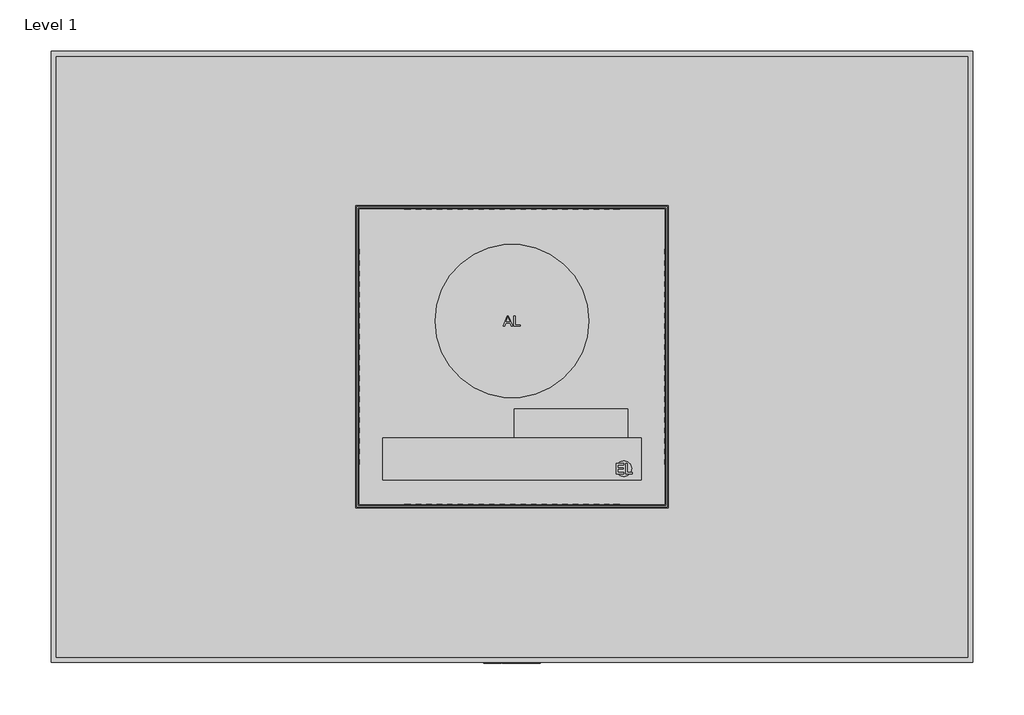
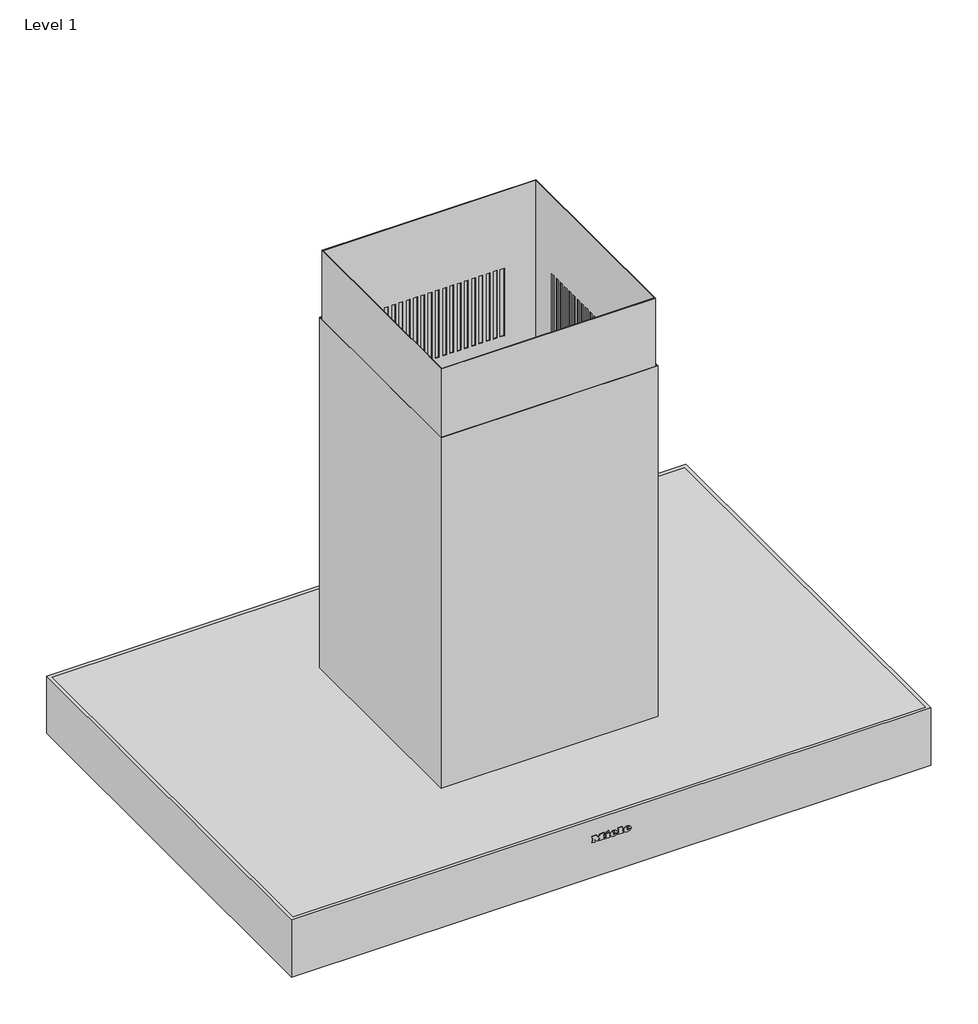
# One storey: 1 proxy.
"""IFC4 building model written with IfcOpenShell, lengths in millimetres."""

from ifc_helpers import new_model, si_unit, origin, place, context, project, spatial, transform, mapped, element, save
from components import specialty_equipment_2a2898d7, specialty_equipment_4a9dfeaa

model = new_model("IFC4")

# Units and contexts
model_context = context("Model", 3, world=origin())
ifc_project = project(units=[si_unit("LENGTHUNIT", "METRE", prefix="MILLI")], contexts=[model_context])

# Site, building, storey
site = spatial("IfcSite", under=ifc_project)
building = spatial("IfcBuilding", under=site)
storey = spatial("IfcBuildingStorey", under=building, Name="Level 1", Elevation=0.0)

# Proxy
placement = place(None, origin())
specialty_equipment_shape = specialty_equipment_2a2898d7(model_context)
specialty_equipment_2_shape = specialty_equipment_4a9dfeaa(model_context)
element("IfcBuildingElementProxy", 1, Name="10863370_RU_DA6698D_BRWS : 28669835_RU_10863370_DA6698D_BRWS", ObjectType="10863370_RU_DA6698D_BRWS : 28669835_RU_10863370_DA6698D_BRWS", at=placement, inside=storey, context=model_context, shape_type="MappedRepresentation", body=[
    mapped(specialty_equipment_shape, transform((0.0, 0.0, 0.0), x_axis=(1.0, 0.0, 0.0), y_axis=(0.0, 1.0, 0.0), z_axis=(0.0, 0.0, 1.0))),
    mapped(specialty_equipment_2_shape, transform((0.0, 0.0, 0.0), x_axis=(1.0, 0.0, 0.0), y_axis=(0.0, 1.0, 0.0), z_axis=(0.0, 0.0, 1.0))),
])

save(model, "model.ifc")
